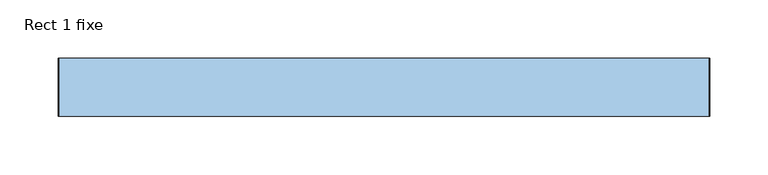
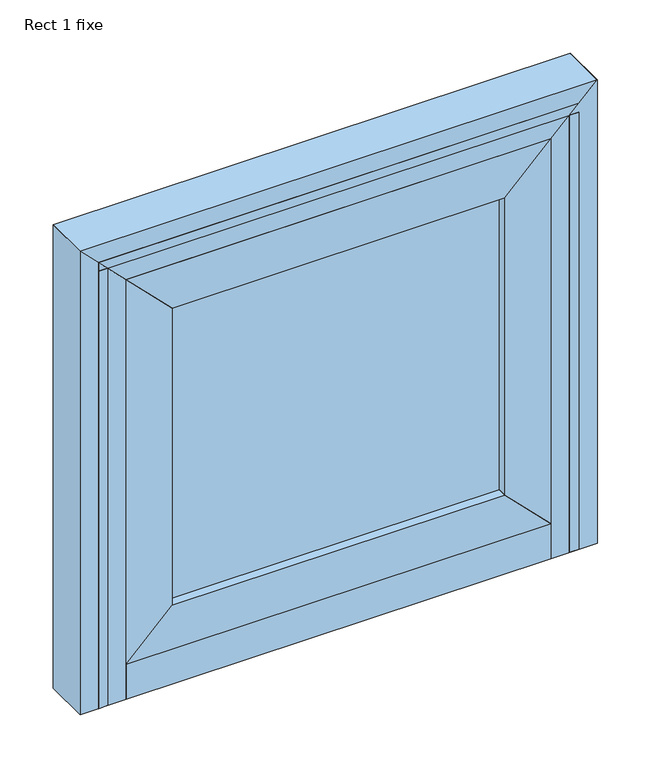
"""IFC4 building model written with IfcOpenShell, lengths in millimetres: window geometry, Rect 1 fixe : 50x50 ss doublage."""

import ifcopenshell
import ifcopenshell.guid

model = None  # the IFC model being written
_history = None  # IfcOwnerHistory: only IFC2X3 demands one
_inside = {}  # id of a spatial element -> (the spatial element, [elements in it])
_under = {}  # id of a project, library or spatial element -> (it, [spatial elements below it])
_declared = {}  # id of a project -> (the project, [libraries it declares])
_typed = {}  # id of a type object -> (the type object, [elements of that type])
_made_of = {}  # id of a material, layer set ... -> (it, [elements and type objects made of it])


def new_model(schema):
    """Start an empty IFC model of exactly this schema.

    Asked for "IFC4X3", IfcOpenShell would pick the latest addendum, in which some entities
    have other attributes; the version numbers below select the first issue.
    IFC2X3 requires an IfcOwnerHistory on every rooted entity: one is made here for all.
    """
    global model, _history
    if schema == "IFC4X3":
        model = ifcopenshell.file(schema_version=(4, 3, 0, 0))
    else:
        model = ifcopenshell.file(schema=schema)
    _inside.clear()
    _under.clear()
    _declared.clear()
    _typed.clear()
    _made_of.clear()
    _history = None
    if model.schema == "IFC2X3":
        org = make("IfcOrganization", Name="unknown")
        user = make(
            "IfcPersonAndOrganization",
            ThePerson=make("IfcPerson", FamilyName="unknown"),
            TheOrganization=org,
        )
        app = make(
            "IfcApplication",
            ApplicationDeveloper=org,
            Version="unknown",
            ApplicationFullName="unknown",
            ApplicationIdentifier="unknown",
        )
        _history = make(
            "IfcOwnerHistory",
            OwningUser=user,
            OwningApplication=app,
            ChangeAction="ADDED",
            CreationDate=0,
        )
    return model


def make(cls, **values):
    """One entity of the class cls with the attributes given. An attribute that is None is left unset."""
    return model.create_entity(
        cls, **{name: value for name, value in values.items() if value is not None}
    )


def rooted(cls, **values):
    """An entity with a GlobalId (a new one), such as an element, a storey or a relation."""
    return make(cls, GlobalId=ifcopenshell.guid.new(), OwnerHistory=_history, **values)


def si_unit(unit_type, name, prefix=None):
    """IfcSIUnit, for example si_unit("LENGTHUNIT", "METRE", prefix="MILLI")."""
    return make("IfcSIUnit", UnitType=unit_type, Prefix=prefix, Name=name)


def assignment(units):
    """IfcUnitAssignment: the units of a project."""
    return None if units is None else make("IfcUnitAssignment", Units=units)


def point(xyz):
    """IfcCartesianPoint."""
    return None if xyz is None else make("IfcCartesianPoint", Coordinates=xyz)


def direction(xyz):
    """IfcDirection."""
    return None if xyz is None else make("IfcDirection", DirectionRatios=xyz)


def frame(location, z_axis=None, x_axis=None):
    """IfcAxis2Placement3D, a coordinate frame: its origin and axes. An axis left out is left unset."""
    return make(
        "IfcAxis2Placement3D",
        Location=point(location),
        Axis=direction(z_axis),
        RefDirection=direction(x_axis),
    )


def origin():
    """The frame at (0, 0, 0) with its axes left unset."""
    return frame((0.0, 0.0, 0.0))


def place(relative_to, where):
    """IfcLocalPlacement: puts the frame where relative to a parent placement (None: the world)."""
    return make(
        "IfcLocalPlacement", PlacementRelTo=relative_to, RelativePlacement=where
    )


def context(
    kind, dimensions, precision=None, world=None, true_north=None, identifier=None
):
    """IfcGeometricRepresentationContext, for example the 3D "Model" context."""
    return make(
        "IfcGeometricRepresentationContext",
        ContextIdentifier=identifier,
        ContextType=kind,
        CoordinateSpaceDimension=dimensions,
        Precision=precision,
        WorldCoordinateSystem=world,
        TrueNorth=true_north,
    )


def project(units=None, contexts=None):
    """IfcProject with its units and contexts."""
    return rooted(
        "IfcProject",
        Name="project",
        RepresentationContexts=contexts,
        UnitsInContext=assignment(units),
    )


def spatial(cls, under=None, at=None, **own):
    """A site, building, storey or space (cls), placed at a placement, below another one or the project."""
    s = rooted(cls, ObjectPlacement=at, **own)
    if under is not None:
        _under.setdefault(under.id(), (under, []))[1].append(s)
    return s


def polyline(points):
    """IfcPolyline through the points."""
    return make("IfcPolyline", Points=[point(p) for p in points])


def outline(outer, holes=None, kind="AREA"):
    """IfcArbitraryClosedProfileDef: a profile drawn as a closed curve; with holes, ...WithVoids."""
    if holes is None:
        return make("IfcArbitraryClosedProfileDef", ProfileType=kind, OuterCurve=outer)
    return make(
        "IfcArbitraryProfileDefWithVoids",
        ProfileType=kind,
        OuterCurve=outer,
        InnerCurves=holes,
    )


def extrude(swept, where, along, depth):
    """IfcExtrudedAreaSolid: the profile swept, set in the frame where, extruded along a direction by depth."""
    return make(
        "IfcExtrudedAreaSolid",
        SweptArea=swept,
        Position=where,
        ExtrudedDirection=direction(along),
        Depth=depth,
    )


def faces_of(points, faces, orient=None, outer=None):
    """IfcFace entities. A face is a list of loops; a loop is a list of indices into points, from 0.

    orient and outer hold one flag for each loop. By default every Orientation is true, the
    first loop of a face is its IfcFaceOuterBound and the others are IfcFaceBound.
    """
    made = []
    for i, loops in enumerate(faces):
        bounds = []
        for j, loop in enumerate(loops):
            is_outer = j == 0 if outer is None else outer[i][j]
            bounds.append(
                make(
                    "IfcFaceOuterBound" if is_outer else "IfcFaceBound",
                    Bound=make("IfcPolyLoop", Polygon=[points[k] for k in loop]),
                    Orientation=True if orient is None else orient[i][j],
                )
            )
        made.append(make("IfcFace", Bounds=bounds))
    return made


def faceted_brep(points, faces, orient=None, outer=None, voids=None):
    """IfcFacetedBrep: a solid bounded by flat faces; with voids (closed shells), ...WithVoids."""
    shared = [point(p) for p in points]
    hull = make("IfcClosedShell", CfsFaces=faces_of(shared, faces, orient, outer))
    if voids is None:
        return make("IfcFacetedBrep", Outer=hull)
    return make(
        "IfcFacetedBrepWithVoids",
        Outer=hull,
        Voids=[
            make(cls, CfsFaces=faces_of(shared, fs, o, b)) for cls, fs, o, b in voids
        ],
    )


def shape(context_of_items, identifier, shape_type, items):
    """IfcShapeRepresentation: the items that make up one representation, for example the "Body"."""
    return make(
        "IfcShapeRepresentation",
        ContextOfItems=context_of_items,
        RepresentationIdentifier=identifier,
        RepresentationType=shape_type,
        Items=items,
    )


def source(mapping_origin, context_of_items, identifier, shape_type, items):
    """IfcRepresentationMap: a shape defined once, which mapped items show again and again."""
    return make(
        "IfcRepresentationMap",
        MappingOrigin=mapping_origin,
        MappedRepresentation=shape(context_of_items, identifier, shape_type, items),
    )


def transform(
    local_origin,
    x_axis=None,
    y_axis=None,
    z_axis=None,
    scale=None,
    scale2=None,
    scale3=None,
    uniform=True,
):
    """IfcCartesianTransformationOperator3D, or its non-uniform kind. x_axis, y_axis, z_axis: its Axis1, 2, 3."""
    if uniform:
        return make(
            "IfcCartesianTransformationOperator3D",
            Axis1=direction(x_axis),
            Axis2=direction(y_axis),
            LocalOrigin=point(local_origin),
            Scale=scale,
            Axis3=direction(z_axis),
        )
    return make(
        "IfcCartesianTransformationOperator3DnonUniform",
        Axis1=direction(x_axis),
        Axis2=direction(y_axis),
        LocalOrigin=point(local_origin),
        Scale=scale,
        Axis3=direction(z_axis),
        Scale2=scale2,
        Scale3=scale3,
    )


def mapped(mapping_source, mapping_target):
    """IfcMappedItem: shows the shape of a source again, moved by a transform."""
    return make(
        "IfcMappedItem", MappingSource=mapping_source, MappingTarget=mapping_target
    )


def made_of(thing, what):
    """Note that an element or type object is made of a material, layer set ...; save() writes the relation."""
    if what is not None:
        _made_of.setdefault(what.id(), (what, []))[1].append(thing)
    return thing


def element(
    cls,
    number,
    at=None,
    inside=None,
    cuts=None,
    type_object=None,
    material=None,
    context=None,
    identifier="Body",
    shape_type=None,
    held_by="IfcProductDefinitionShape",
    body=None,
    shapes=None,
    **own,
):
    """One element of the class cls, such as IfcWall. Its Tag is "e" and its number.

    at: its placement. inside: the storey or other place that contains it. cuts: it is an
    opening in that element (IfcRelVoidsElement). A single representation is given by context,
    identifier, shape_type and body (its items); several are given by shapes. held_by: the class
    of the entity that holds the representations. save() writes the other relations.
    """
    e = rooted(cls, Tag="e%d" % number, ObjectPlacement=at, **own)
    if body is not None:
        shapes = [shape(context, identifier, shape_type, body)]
    if shapes is not None:
        e.Representation = make(held_by, Representations=shapes)
    if inside is not None:
        _inside.setdefault(inside.id(), (inside, []))[1].append(e)
    if cuts is not None:
        rooted(
            "IfcRelVoidsElement", RelatingBuildingElement=cuts, RelatedOpeningElement=e
        )
    if type_object is not None:
        _typed.setdefault(type_object.id(), (type_object, []))[1].append(e)
    return made_of(e, material)


def aggregate(whole, parts):
    """IfcRelAggregates: a whole, such as a stair, and the parts it consists of."""
    return rooted("IfcRelAggregates", RelatingObject=whole, RelatedObjects=parts)


def save(model, path):
    """Write the relations noted so far, then the file.

    IfcRelAggregates (storeys below a building ...), IfcRelContainedInSpatialStructure (elements
    in a storey), IfcRelDefinesByType, IfcRelAssociatesMaterial and IfcRelDeclares: one each for
    every whole, place, type object, material and project.
    """
    for whole, parts in _under.values():
        aggregate(whole, parts)
    for where, things in _inside.values():
        rooted(
            "IfcRelContainedInSpatialStructure",
            RelatedElements=things,
            RelatingStructure=where,
        )
    for kind, things in _typed.values():
        rooted("IfcRelDefinesByType", RelatedObjects=things, RelatingType=kind)
    for what, things in _made_of.values():
        rooted("IfcRelAssociatesMaterial", RelatedObjects=things, RelatingMaterial=what)
    for by, libraries in _declared.values():
        rooted("IfcRelDeclares", RelatingContext=by, RelatedDefinitions=libraries)
    model.write(path)


def rect_1_fixe_878426cb(model_context):
    return source(origin(), model_context, "Body", "SolidModel", [
        extrude(outline(polyline([(1840.0, 180.0), (1840.0, -180.0), (1790.0, -230.0), (1790.0, 230.0), (1840.0, 180.0)])), frame((0.0, -90.0, 0.0), z_axis=(0.0, 1.0, 0.0), x_axis=(0.0, 0.0, 1.0)), (0.0, 0.0, 1.0), 40.0),
        extrude(outline(polyline([(2180.0, 180.0), (1840.0, 180.0), (1790.0, 230.0), (2230.0, 230.0), (2180.0, 180.0)])), frame((0.0, -90.0, 0.0), z_axis=(0.0, 1.0, 0.0), x_axis=(0.0, 0.0, 1.0)), (0.0, 0.0, 1.0), 40.0),
        extrude(outline(polyline([(1840.0, -180.0), (2180.0, -180.0), (2230.0, -230.0), (1790.0, -230.0), (1840.0, -180.0)])), frame((0.0, -90.0, 0.0), z_axis=(0.0, 1.0, 0.0), x_axis=(0.0, 0.0, 1.0)), (0.0, 0.0, 1.0), 40.0),
        extrude(outline(polyline([(-180.0, -80.0), (-180.0, -60.0), (180.0, -60.0), (180.0, -80.0), (-180.0, -80.0)])), frame((0.0, 0.0, 1840.0), z_axis=(0.0, 0.0, 1.0), x_axis=(1.0, 0.0, 0.0)), (0.0, 0.0, 1.0), 340.0),
        extrude(outline(polyline([(2180.0, -180.0), (2180.0, 180.0), (2230.0, 230.0), (2230.0, -230.0), (2180.0, -180.0)])), frame((0.0, -90.0, 0.0), z_axis=(0.0, 1.0, 0.0), x_axis=(0.0, 0.0, 1.0)), (0.0, 0.0, 1.0), 40.0),
        faceted_brep([(-230.0, -40.0, 1790.0), (-230.0, -40.0, 1789.7190155), (-230.0, -80.0, 1780.0), (-230.0, -80.0, 1750.0), (-230.0, -90.0, 1750.0), (-230.0, -90.0, 1790.0), (230.0, -90.0, 1750.0), (230.0, -80.0, 1750.0), (230.0, -80.0, 1780.0), (230.0, -40.0, 1789.7190155), (230.0, -40.0, 1790.0), (230.0, -90.0, 1790.0), (-250.0, -80.0, 1750.0), (-250.0, -40.0, 1750.0), (250.0, -40.0, 1750.0), (250.0, -80.0, 1750.0), (250.0, -40.0, 1789.7190155), (-250.0, -40.0, 1789.7190155), (-250.0, -80.0, 1780.0), (250.0, -80.0, 1780.0)], [[[0, 1, 2, 3, 4, 5]], [[6, 7, 8, 9, 10, 11]], [[5, 11, 10, 0]], [[4, 6, 11, 5]], [[4, 3, 12, 13, 14, 15, 7, 6]], [[10, 9, 16, 14, 13, 17, 1, 0]], [[13, 12, 18, 17]], [[14, 16, 19, 15]], [[12, 3, 2, 18]], [[19, 8, 7, 15]], [[16, 9, 8, 19]], [[18, 2, 1, 17]]]),
        extrude(outline(polyline([(260.0, -40.0), (260.0, -90.0), (250.0, -90.0), (250.0, -40.0), (260.0, -40.0)])), frame((0.0, 0.0, 1750.0), z_axis=(0.0, 0.0, 1.0), x_axis=(1.0, 0.0, 0.0)), (0.0, 0.0, 1.0), 500.0),
        extrude(outline(polyline([(-260.0, -40.0), (-250.0, -40.0), (-250.0, -90.0), (-260.0, -90.0), (-260.0, -40.0)])), frame((0.0, 0.0, 1750.0), z_axis=(0.0, 0.0, 1.0), x_axis=(1.0, 0.0, 0.0)), (0.0, 0.0, 1.0), 500.0),
        extrude(outline(polyline([(2280.0, 280.0), (2230.0, 230.0), (1750.0, 230.0), (1750.0, 280.0), (2280.0, 280.0)])), frame((0.0, -90.0, 0.0), z_axis=(0.0, 1.0, 0.0), x_axis=(0.0, 0.0, 1.0)), (0.0, 0.0, 1.0), 50.0),
        extrude(outline(polyline([(2280.0, -280.0), (1750.0, -280.0), (1750.0, -230.0), (2230.0, -230.0), (2280.0, -280.0)])), frame((0.0, -90.0, 0.0), z_axis=(0.0, 1.0, 0.0), x_axis=(0.0, 0.0, 1.0)), (0.0, 0.0, 1.0), 50.0),
        extrude(outline(polyline([(-260.0, -40.0), (260.0, -40.0), (260.0, -90.0), (-260.0, -90.0), (-260.0, -40.0)])), frame((0.0, 0.0, 2250.0), z_axis=(0.0, 0.0, 1.0), x_axis=(1.0, 0.0, 0.0)), (0.0, 0.0, 1.0), 10.0),
        extrude(outline(polyline([(2280.0, 280.0), (2280.0, -280.0), (2230.0, -230.0), (2230.0, 230.0), (2280.0, 280.0)])), frame((0.0, -90.0, 0.0), z_axis=(0.0, 1.0, 0.0), x_axis=(0.0, 0.0, 1.0)), (0.0, 0.0, 1.0), 50.0),
    ])


if __name__ == "__main__":
    model = new_model("IFC4")
    model_context = context("Model", 3, world=origin())
    ifc_project = project(units=[si_unit("LENGTHUNIT", "METRE", prefix="MILLI")], contexts=[model_context])
    site = spatial("IfcSite", under=ifc_project)
    building = spatial("IfcBuilding", under=site)
    placement = place(None, origin())
    rect_1_fixe_shape = rect_1_fixe_878426cb(model_context)
    element("IfcWindow", 1, ObjectType="Rect 1 fixe : 50x50 ss doublage", at=placement, inside=building, context=model_context, shape_type="MappedRepresentation", body=[
        mapped(rect_1_fixe_shape, transform((0.0, 0.0, 0.0), x_axis=(1.0, 0.0, 0.0), y_axis=(0.0, 1.0, 0.0), z_axis=(0.0, 0.0, 1.0))),
    ])
    save(model, "model.ifc")
